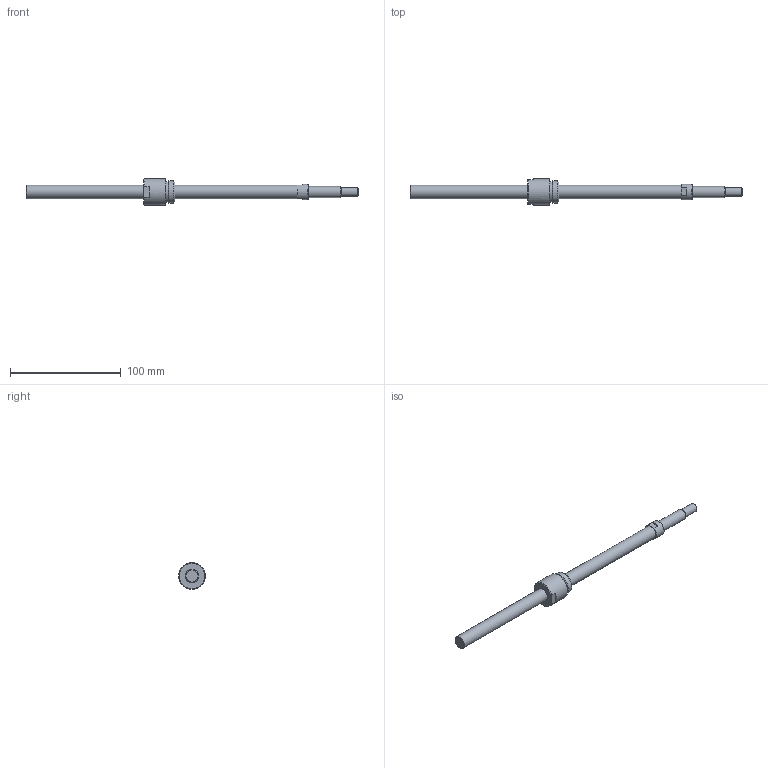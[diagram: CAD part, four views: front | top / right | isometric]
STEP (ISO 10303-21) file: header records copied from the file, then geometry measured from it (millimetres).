
FILE_DESCRIPTION(/* description */ ('STEP AP214'),/* implementation_level */ '2;1');
FILE_NAME(/* name */ 'NSG1202-241R300C5A0X(106.5)',/* time_stamp */ '2026-08-20T15:50:00+02:00',/* author */ ('License CC BY-ND 4.0'),/* organization */ ('CADENAS'),/* preprocessor_version */ 'ST-DEVELOPER v20',/* originating_system */ 'PARTsolutions',/* authorisation */ ' ');
FILE_SCHEMA (('AUTOMOTIVE_DESIGN {1 0 10303 214 3 1 1}'));
Length unit declared in the file: millimetre
Products named in the file (3): NSG1202-241R300C5A0X(106.5); NSG1202-241R300C3A_shaft; NSG1202_nut
Assembly tree (2 placements, depth 2):
  NSG1202-241R300C5A0X(106.5)
    NSG1202-241R300C3A_shaft
    NSG1202_nut
Bounding box: 300 x 24 x 24 mm (x, y, z)
Volume: 40479.2 mm3; surface area: 14993.7 mm2
Topology: 2 solids, 2 shells, 35 faces, 72 edges, 44 vertices
Faces by surface type: plane 17, cone 9, cylinder 8, torus 1
Full cylindrical faces by diameter (mm): 8 x1, 10 x1, 12 x2, 14 x1, 18.4 x1, 20 x1, 24 x1
Entity records: 907 total; most frequent: DIRECTION 158, CARTESIAN_POINT 146, ORIENTED_EDGE 108, AXIS2_PLACEMENT_3D 70, EDGE_LOOP 56, FACE_BOUND 56, EDGE_CURVE 54, VERTEX_POINT 42
